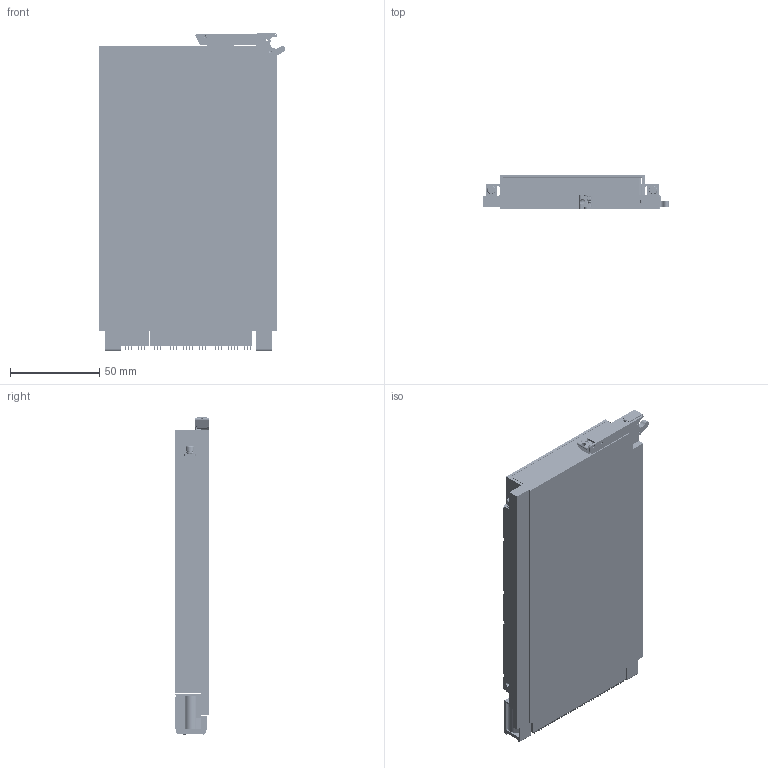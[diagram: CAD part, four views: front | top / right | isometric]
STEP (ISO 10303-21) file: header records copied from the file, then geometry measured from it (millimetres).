
FILE_DESCRIPTION (( 'STEP AP203' ), '1' );
FILE_NAME ('3U-VPX48.2-PS-260HC-311TC 800.step', '2018-06-15T20:53:27', ( '' ), ( '' ), 'SwSTEP 2.0', 'SolidWorks 2014', '' );
FILE_SCHEMA (( 'CONFIG_CONTROL_DESIGN' ));
Products named in the file (1): 3U-VPX48.2-PS-260HC-311TC 800
Bounding box: 104.37 x 19.58 x 177.74 mm (x, y, z)
Volume: 258846 mm3; surface area: 223244.5 mm2
Topology: 306 solids, 306 shells, 21771 faces, 61124 edges, 39626 vertices
Faces by surface type: plane 17862, cylinder 2726, bspline 1008, cone 169, torus 6
Entity records: 744976 total; most frequent: CARTESIAN_POINT 192623, ORIENTED_EDGE 118580, DIRECTION 105356, EDGE_CURVE 59290, LINE 51158, VECTOR 51158, VERTEX_POINT 39626, AXIS2_PLACEMENT_3D 27099
